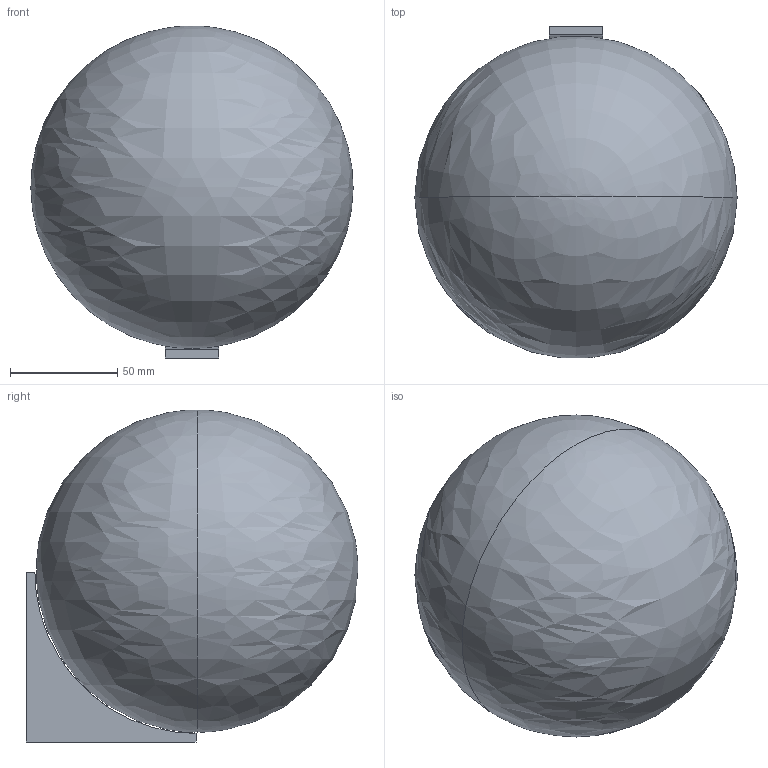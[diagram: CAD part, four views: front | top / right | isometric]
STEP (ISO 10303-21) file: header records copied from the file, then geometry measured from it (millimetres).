
FILE_DESCRIPTION(/* description */ (''),/* implementation_level */ '2;1');
FILE_NAME(/* name */ 'Single Sconce, 2017',/* time_stamp */ '2020-10-09T17:38:17+01:00',/* author */ (''),/* organization */ (''),/* preprocessor_version */ 'ST-DEVELOPER v15',/* originating_system */ '',/* authorisation */ '');
FILE_SCHEMA (('AUTOMOTIVE_DESIGN'));
Length unit declared in the file: millimetre
Products named in the file (1): Document
Bounding box: 149.99 x 154.27 x 154.54 mm (x, y, z)
Volume: 1819288.9 mm3; surface area: 81552.3 mm2
Topology: 1 solids, 1 shells, 11 faces, 27 edges, 16 vertices
Faces by surface type: bspline 8, plane 3
Entity records: 368 total; most frequent: CARTESIAN_POINT 207, ORIENTED_EDGE 46, EDGE_CURVE 23, VERTEX_POINT 16, EDGE_LOOP 13, ADVANCED_FACE 11, FACE_OUTER_BOUND 11, DIRECTION 7
